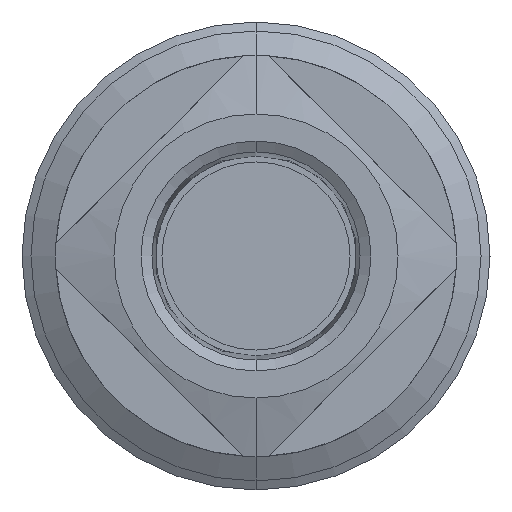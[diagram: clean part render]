
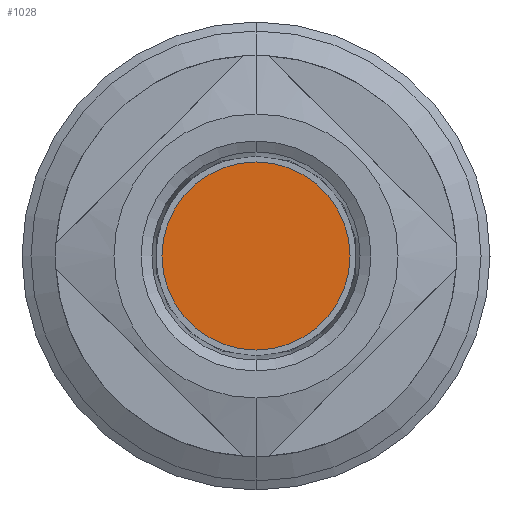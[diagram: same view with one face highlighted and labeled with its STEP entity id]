
A CAD part, front view. The second image highlights one B-rep face of the part: STEP entity #1028.
In plain terms, the highlighted planar face has unit normal (0, -1, 0).
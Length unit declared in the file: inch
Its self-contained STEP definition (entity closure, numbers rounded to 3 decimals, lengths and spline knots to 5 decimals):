
#54 = DIRECTION ( 'NONE',  ( 0., -1., 0. ) ) ;
#201 = VERTEX_POINT ( 'NONE', #4144 ) ;
#411 = EDGE_LOOP ( 'NONE', ( #3397, #2139 ) ) ;
#854 = AXIS2_PLACEMENT_3D ( 'NONE', #4817, #1369, #2905 ) ;
#1028 = ADVANCED_FACE ( 'NONE', ( #1182 ), #1971, .T. ) ;
#1182 = FACE_OUTER_BOUND ( 'NONE', #411, .T. ) ;
#1369 = DIRECTION ( 'NONE',  ( 0., 1., 0. ) ) ;
#1753 = CARTESIAN_POINT ( 'NONE',  ( 0., -0.089, 0. ) ) ;
#1788 = CARTESIAN_POINT ( 'NONE',  ( 0., -0.089, -0.875 ) ) ;
#1945 = EDGE_CURVE ( 'NONE', #201, #4362, #2787, .T. ) ;
#1971 = PLANE ( 'NONE',  #4783 ) ;
#2139 = ORIENTED_EDGE ( 'NONE', *, *, #1945, .F. ) ;
#2787 = CIRCLE ( 'NONE', #4951, 0.875 ) ;
#2795 = CIRCLE ( 'NONE', #854, 0.875 ) ;
#2877 = DIRECTION ( 'NONE',  ( 0., 0., -1. ) ) ;
#2901 = DIRECTION ( 'NONE',  ( 0., 1., 0. ) ) ;
#2905 = DIRECTION ( 'NONE',  ( 0., 0., -1. ) ) ;
#3397 = ORIENTED_EDGE ( 'NONE', *, *, #4729, .F. ) ;
#3504 = CARTESIAN_POINT ( 'NONE',  ( 0., -0.089, 0. ) ) ;
#3924 = DIRECTION ( 'NONE',  ( 0., 0., 1. ) ) ;
#4144 = CARTESIAN_POINT ( 'NONE',  ( 0., -0.089, 0.875 ) ) ;
#4362 = VERTEX_POINT ( 'NONE', #1788 ) ;
#4729 = EDGE_CURVE ( 'NONE', #4362, #201, #2795, .T. ) ;
#4783 = AXIS2_PLACEMENT_3D ( 'NONE', #3504, #54, #3924 ) ;
#4817 = CARTESIAN_POINT ( 'NONE',  ( 0., -0.089, 0. ) ) ;
#4951 = AXIS2_PLACEMENT_3D ( 'NONE', #1753, #2901, #2877 ) ;
